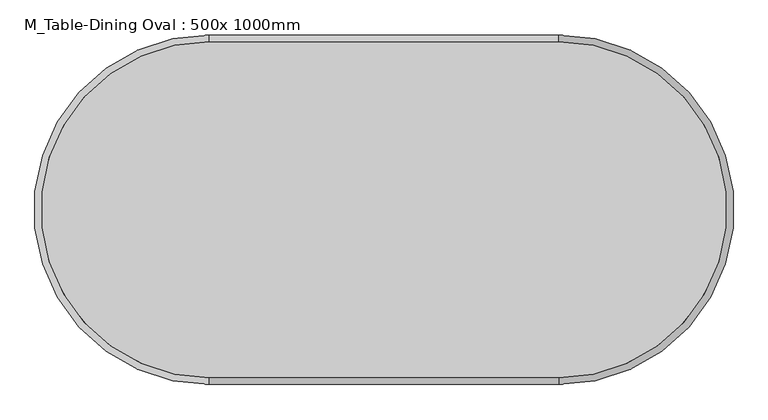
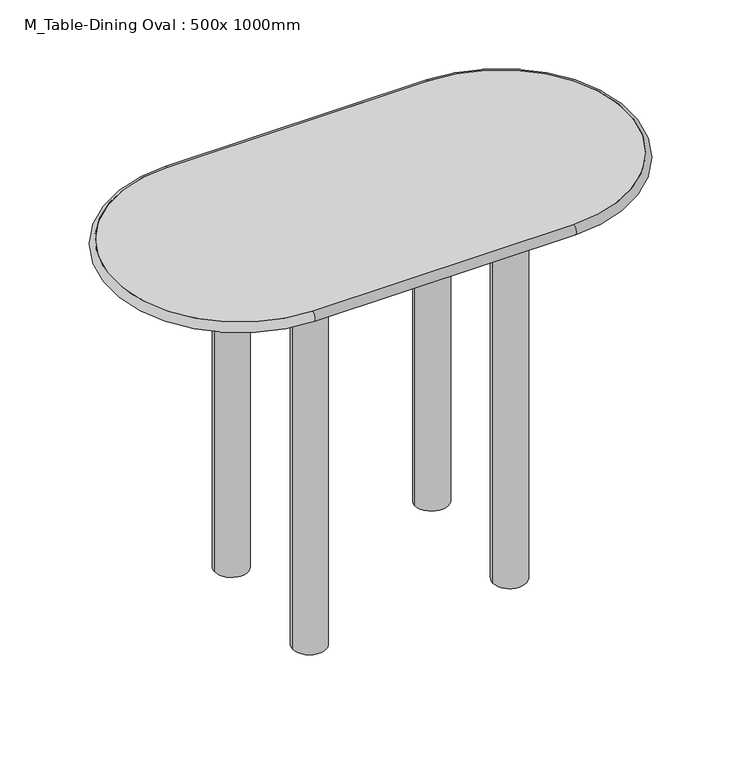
"""IFC4 building model written with IfcOpenShell, lengths in millimetres: furniture geometry, M_Table-Dining Oval : 500x 1000mm."""

from ifc_helpers import new_model, si_unit, point, frame, frame_2d, origin, origin_with_axes, place, context, project, spatial, polyline, circle_curve, ellipse_curve, trimmed, segment, composite_curve, outline, extrude, source, transform, mapped, element, save
from ifc_brep_helpers import plane_surface, cylinder_surface, revolved_surface, advanced_brep


def m_table_dining_oval_500x_1000mm_28df0ddd(model_context):
    return source(origin(), model_context, "Body", "SolidModel", [
        advanced_brep(
        [(-651.8196721, -598.5733607, 762.0), (-651.8196721, -598.5733607, 742.95), (-151.8196721, -598.5733607, 742.95), (-151.8196721, -598.5733607, 762.0), (-151.8196721, -117.6233607, 762.0), (-151.8196721, -117.6233607, 742.95), (-651.8196721, -117.6233607, 742.95), (-651.8196721, -117.6233607, 762.0)],
        [
            (0, 1, circle_curve(frame((-651.8196721, -598.5733607, 752.475), z_axis=(1.0, 0.0, 0.0), x_axis=(0.0, 1.0, 0.0)), 9.525)),
            (1, 2),
            (2, 3, circle_curve(frame((-151.8196721, -598.5733607, 752.475), z_axis=(-1.0, 0.0, 0.0), x_axis=(0.0, 1.0, 0.0)), 9.525)),
            (3, 0),
            (1, 0),
            (3, 2),
            (4, 3, circle_curve(frame((-151.8196721, -358.0983607, 762.0), z_axis=(0.0, 0.0, -1.0), x_axis=(0.0, -1.0, 0.0)), 240.475)),
            (2, 5, circle_curve(frame((-151.8196721, -358.0983607, 742.95), z_axis=(0.0, 0.0, 1.0), x_axis=(0.0, -1.0, 0.0)), 240.475)),
            (5, 4, circle_curve(frame((-151.8196721, -117.6233607, 752.475), z_axis=(1.0, 0.0, 0.0), x_axis=(0.0, -1.0, 0.0)), 9.525)),
            (4, 5),
            (5, 6),
            (6, 7, circle_curve(frame((-651.8196721, -117.6233607, 752.475), z_axis=(1.0, 0.0, 0.0), x_axis=(0.0, -1.0, 0.0)), 9.525)),
            (7, 4),
            (7, 6),
            (0, 7, circle_curve(frame((-651.8196721, -358.0983607, 762.0), z_axis=(0.0, 0.0, -1.0), x_axis=(0.0, 1.0, 0.0)), 240.475)),
            (6, 1, circle_curve(frame((-651.8196721, -358.0983607, 742.95), z_axis=(0.0, 0.0, 1.0), x_axis=(0.0, 1.0, 0.0)), 240.475)),
        ],
        [
            cylinder_surface(frame((-651.8196721, -598.5733607, 752.475), z_axis=(-1.0, 0.0, 0.0), x_axis=(0.0, 1.0, 0.0)), 9.525),
            plane_surface(frame((-651.8196721, -598.5733607, 762.0), z_axis=(0.0, 1.0, 0.0), x_axis=(1.0, 0.0, 0.0))),
            revolved_surface(trimmed(ellipse_curve(frame((-151.8196721, -598.5733607, 752.475), z_axis=(-1.0, 0.0, 0.0), x_axis=(0.0, 1.0, 0.0)), 9.525, 9.525), [point((-151.8196721, -598.5733607, 742.95))], [point((-151.8196721, -598.5733607, 762.0))], True, "CARTESIAN"), (-151.8196721, -358.0983607, 0.0), (0.0, 0.0, 1.0)),
            revolved_surface(polyline([(-151.8196721, -598.5733607, 762.0), (-151.8196721, -598.5733607, 742.95)]), (-151.8196721, -358.0983607, 0.0), (0.0, 0.0, 1.0)),
            cylinder_surface(frame((-151.8196721, -117.6233607, 752.475), z_axis=(1.0, 0.0, 0.0), x_axis=(0.0, -1.0, 0.0)), 9.525),
            plane_surface(frame((-151.8196721, -117.6233607, 762.0), z_axis=(0.0, -1.0, 0.0), x_axis=(-1.0, 0.0, 0.0))),
            revolved_surface(trimmed(ellipse_curve(frame((-651.8196721, -117.6233607, 752.475), z_axis=(1.0, 0.0, 0.0), x_axis=(0.0, -1.0, 0.0)), 9.525, 9.525), [point((-651.8196721, -117.6233607, 742.95))], [point((-651.8196721, -117.6233607, 762.0))], True, "CARTESIAN"), (-651.8196721, -358.0983607, 0.0), (0.0, 0.0, 1.0)),
            revolved_surface(polyline([(-651.8196721, -117.6233607, 762.0), (-651.8196721, -117.6233607, 742.95)]), (-651.8196721, -358.0983607, 0.0), (0.0, 0.0, 1.0)),
        ],
        [
            (0, [[1, 2, 3, 4]]),
            (1, [[5, -4, 6, -2]]),
            (2, [[7, -3, 8, 9]]),
            (3, [[-8, -6, -7, 10]]),
            (4, [[-9, 11, 12, 13]]),
            (5, [[-10, -13, 14, -11]]),
            (6, [[15, -12, 16, -1]]),
            (7, [[-16, -14, -15, -5]]),
        ],
    ),
        extrude(outline(composite_curve([segment(trimmed(circle_curve(frame_2d((-593.5446721, -228.7483607)), 31.75), [point((-625.2946721, -228.7483607))], [point((-561.7946721, -228.7483607))], False, "CARTESIAN"), True, "CONTINUOUS"), segment(trimmed(circle_curve(frame_2d((-593.5446721, -228.7483607)), 31.75), [point((-561.7946721, -228.7483607))], [point((-625.2946721, -228.7483607))], False, "CARTESIAN"), True, "CONTINUOUS")], self_intersect=False)), origin_with_axes(), (0.0, 0.0, 1.0), 742.95),
        extrude(outline(composite_curve([segment(trimmed(circle_curve(frame_2d((-593.5446721, -487.4483607)), 31.75), [point((-625.2946721, -487.4483607))], [point((-561.7946721, -487.4483607))], False, "CARTESIAN"), True, "CONTINUOUS"), segment(trimmed(circle_curve(frame_2d((-593.5446721, -487.4483607)), 31.75), [point((-561.7946721, -487.4483607))], [point((-625.2946721, -487.4483607))], False, "CARTESIAN"), True, "CONTINUOUS")], self_intersect=False)), origin_with_axes(), (0.0, 0.0, 1.0), 742.95),
        extrude(outline(composite_curve([segment(trimmed(circle_curve(frame_2d((-210.0946721, -228.7483607)), 31.75), [point((-241.8446721, -228.7483607))], [point((-178.3446721, -228.7483607))], False, "CARTESIAN"), True, "CONTINUOUS"), segment(trimmed(circle_curve(frame_2d((-210.0946721, -228.7483607)), 31.75), [point((-178.3446721, -228.7483607))], [point((-241.8446721, -228.7483607))], False, "CARTESIAN"), True, "CONTINUOUS")], self_intersect=False)), origin_with_axes(), (0.0, 0.0, 1.0), 742.95),
        extrude(outline(composite_curve([segment(trimmed(circle_curve(frame_2d((-210.0946721, -487.4483607)), 31.75), [point((-241.8446721, -487.4483607))], [point((-178.3446721, -487.4483607))], False, "CARTESIAN"), True, "CONTINUOUS"), segment(trimmed(circle_curve(frame_2d((-210.0946721, -487.4483607)), 31.75), [point((-178.3446721, -487.4483607))], [point((-241.8446721, -487.4483607))], False, "CARTESIAN"), True, "CONTINUOUS")], self_intersect=False)), origin_with_axes(), (0.0, 0.0, 1.0), 742.95),
        extrude(outline(polyline([(-191.0446721, -209.6983607), (-191.0446721, -506.4983607), (-612.5946721, -506.4983607), (-612.5946721, -209.6983607), (-191.0446721, -209.6983607)]), holes=[polyline([(-210.0946721, -228.7483607), (-593.5446721, -228.7483607), (-593.5446721, -487.4483607), (-210.0946721, -487.4483607), (-210.0946721, -228.7483607)])]), frame((0.0, 0.0, 692.15), z_axis=(0.0, 0.0, 1.0), x_axis=(1.0, 0.0, 0.0)), (0.0, 0.0, 1.0), 50.8),
        extrude(outline(composite_curve([segment(polyline([(-651.8196721, -117.6233607), (-151.8196721, -117.6233607)]), True, "CONTINUOUS"), segment(trimmed(circle_curve(frame_2d((-151.8196721, -358.0983607)), 240.475), [point((-151.8196721, -117.6233607))], [point((88.6553279, -358.0983607))], False, "CARTESIAN"), True, "CONTINUOUS"), segment(trimmed(circle_curve(frame_2d((-151.8196721, -358.0983607)), 240.475), [point((88.6553279, -358.0983607))], [point((-151.8196721, -598.5733607))], False, "CARTESIAN"), True, "CONTINUOUS"), segment(polyline([(-151.8196721, -598.5733607), (-651.8196721, -598.5733607)]), True, "CONTINUOUS"), segment(trimmed(circle_curve(frame_2d((-651.8196721, -358.0983607)), 240.475), [point((-651.8196721, -598.5733607))], [point((-892.2946721, -358.0983607))], False, "CARTESIAN"), True, "CONTINUOUS"), segment(trimmed(circle_curve(frame_2d((-651.8196721, -358.0983607)), 240.475), [point((-892.2946721, -358.0983607))], [point((-651.8196721, -117.6233607))], False, "CARTESIAN"), True, "CONTINUOUS")], self_intersect=False)), frame((0.0, 0.0, 742.95), z_axis=(0.0, 0.0, 1.0), x_axis=(1.0, 0.0, 0.0)), (0.0, 0.0, 1.0), 19.05),
    ])


if __name__ == "__main__":
    model = new_model("IFC4")
    model_context = context("Model", 3, world=origin())
    ifc_project = project(units=[si_unit("LENGTHUNIT", "METRE", prefix="MILLI")], contexts=[model_context])
    site = spatial("IfcSite", under=ifc_project)
    building = spatial("IfcBuilding", under=site)
    placement = place(None, origin())
    m_table_dining_oval_500x_1000mm_shape = m_table_dining_oval_500x_1000mm_28df0ddd(model_context)
    element("IfcFurniture", 1, ObjectType="M_Table-Dining Oval : 500x 1000mm", at=placement, inside=building, context=model_context, shape_type="MappedRepresentation", body=[
        mapped(m_table_dining_oval_500x_1000mm_shape, transform((0.0, 0.0, 0.0), x_axis=(1.0, 0.0, 0.0), y_axis=(0.0, 1.0, 0.0), z_axis=(0.0, 0.0, 1.0))),
    ])
    save(model, "model.ifc")
